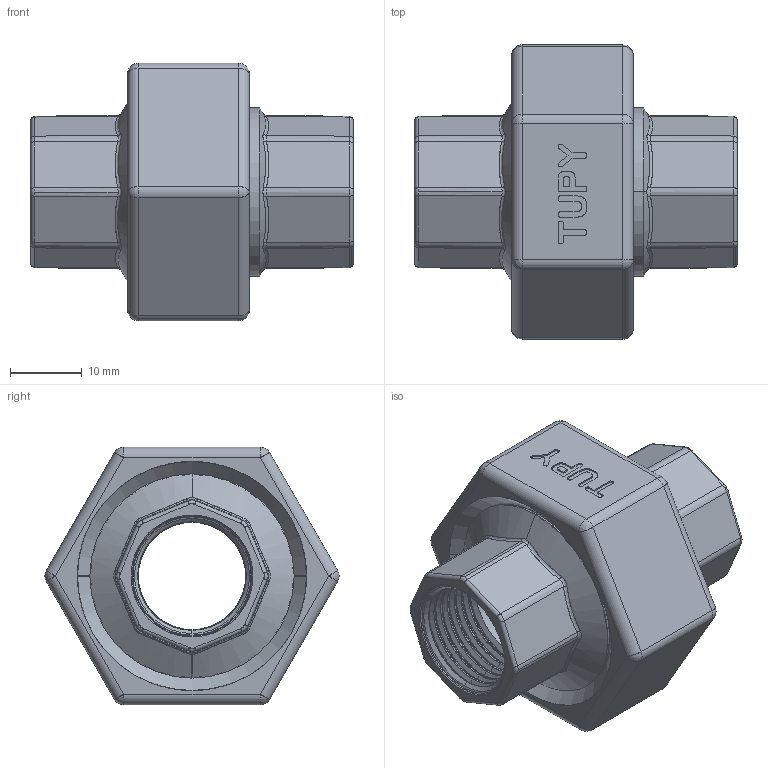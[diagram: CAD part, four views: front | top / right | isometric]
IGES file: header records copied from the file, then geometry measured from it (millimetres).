
Start section: SolidWorks IGES file using analytic representation for surfaces
Global section: file name: C:\Users\Joel Rosa\Desktop\Tubulação\12-62-X\12-62-003.IGS; native system: SolidWorks 2011; preprocessor: SolidWorks 2011; author: Joel Rosa; date: 130721.134425; units: millimetre
Bounding box: 45 x 41.11 x 36 mm (x, y, z)
Surface area: 14100.7 mm2 (no closed solid volume)
Topology: 0 solids, 0 shells, 526 faces, 4152 edges, 4144 vertices
Faces by surface type: bspline 327, revolution 199
